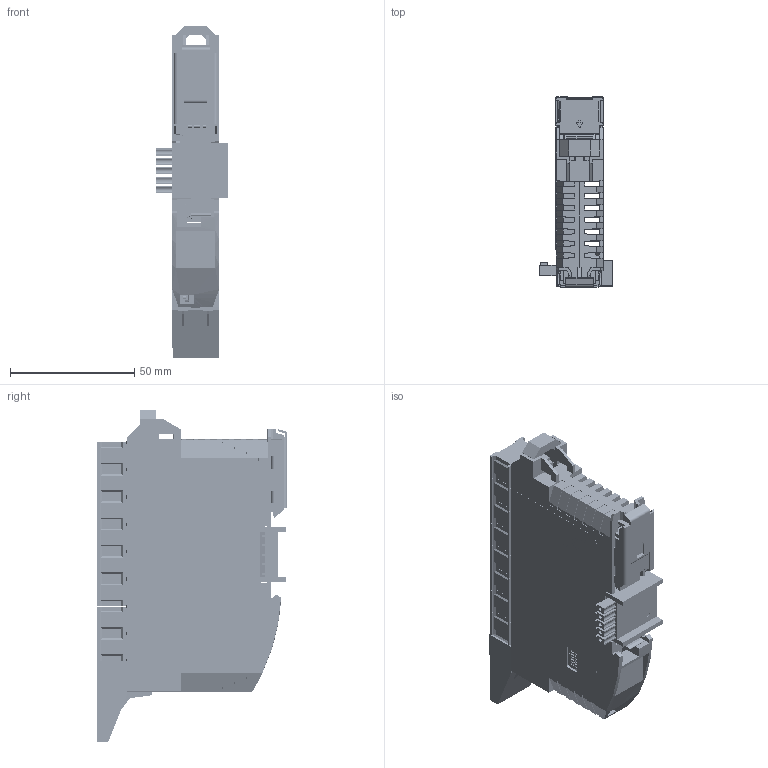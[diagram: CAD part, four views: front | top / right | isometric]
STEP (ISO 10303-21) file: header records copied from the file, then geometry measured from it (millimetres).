
FILE_DESCRIPTION(/* description */ (''),/* implementation_level */ '2;1');
FILE_NAME(/* name */ 'C:/Temp/STEP/FdxCompact_DO-8-C.step',/* time_stamp */ '2020-04-03T13:43:06+03:00',/* author */ (''),/* organization */ (''),/* preprocessor_version */ 'ST-DEVELOPER v18',/* originating_system */ 'Autodesk Translation Framework v8.12.0.6',/* authorisation */ '');
FILE_SCHEMA (('AUTOMOTIVE_DESIGN { 1 0 10303 214 3 1 1 }'));
Products named in the file (1): FdxCompact_DO-8-C
Bounding box: 29.2 x 76.5 x 133.55 mm (x, y, z)
Volume: 51437.7 mm3; surface area: 74036.8 mm2
Topology: 329 solids, 337 shells, 7711 faces, 20583 edges, 13688 vertices
Faces by surface type: plane 5859, cylinder 864, bspline 827, cone 96, sphere 33, torus 32
Full cylindrical faces by diameter (mm): 0.62 x1, 1 x19, 1.2 x32, 1.3 x32, 1.6 x10
Entity records: 372234 total; most frequent: CARTESIAN_POINT 175878, ORIENTED_EDGE 41068, DIRECTION 34440, EDGE_CURVE 20551, LINE 16400, VECTOR 16400, VERTEX_POINT 13688, AXIS2_PLACEMENT_3D 9020
